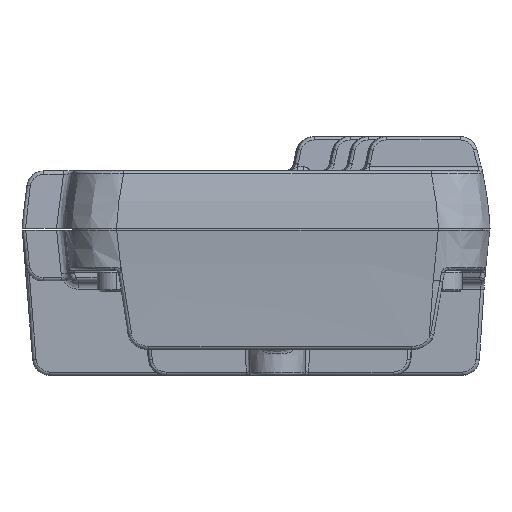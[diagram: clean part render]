
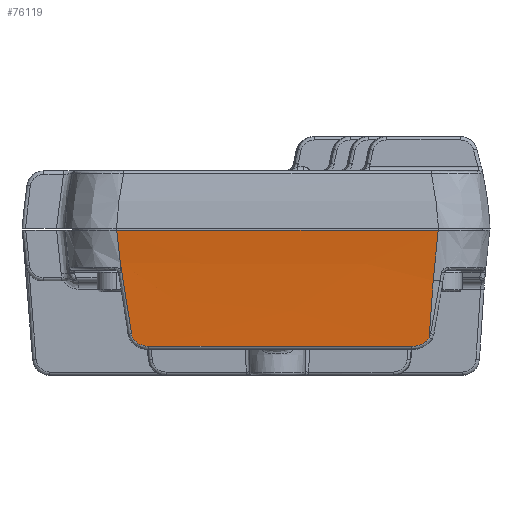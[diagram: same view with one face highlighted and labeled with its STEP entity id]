
A CAD part, left-side view. The second image highlights one B-rep face of the part: STEP entity #76119.
In plain terms, the highlighted face is a extrusion surface.
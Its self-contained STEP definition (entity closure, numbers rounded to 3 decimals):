
#45580=CARTESIAN_POINT('',(-17.967,18.967,1.37));
#48832=CARTESIAN_POINT('',(-16.918,-17.418,
-11.098));
#48833=CARTESIAN_POINT('',(-16.911,-17.359,
-11.203));
#48834=CARTESIAN_POINT('',(-16.899,-17.21,
-11.41));
#48835=CARTESIAN_POINT('',(-16.881,-16.879,
-11.699));
#48836=CARTESIAN_POINT('',(-16.866,-16.441,
-11.936));
#48837=CARTESIAN_POINT('',(-16.857,-15.95,
-12.088));
#48838=CARTESIAN_POINT('',(-16.855,-15.583,
-12.125));
#48839=CARTESIAN_POINT('',(-16.855,-15.392,
-12.124));
#48888=CARTESIAN_POINT('',(-17.967,18.967,1.37));
#48889=CARTESIAN_POINT('',(-17.942,18.944,
1.181));
#48890=CARTESIAN_POINT('',(-17.89,18.898,
0.792));
#48891=CARTESIAN_POINT('',(-17.825,18.831,
0.238));
#48892=CARTESIAN_POINT('',(-17.754,18.757,
-0.407));
#48893=CARTESIAN_POINT('',(-17.691,18.693,
-1.008));
#48894=CARTESIAN_POINT('',(-17.624,18.622,
-1.699));
#48895=CARTESIAN_POINT('',(-17.581,18.58,
-2.145));
#48896=CARTESIAN_POINT('',(-17.561,18.559,
-2.368));
#48898=DIRECTION('',(0.,1.,0.));
#48899=VECTOR('',#48898,37.435);
#48900=CARTESIAN_POINT('',(-17.967,-18.467,
1.37));
#48901=LINE('',#48900,#48899);
#48902=CARTESIAN_POINT('',(-17.385,-17.884,
-4.452));
#48903=CARTESIAN_POINT('',(-17.414,-17.913,
-4.086));
#48904=CARTESIAN_POINT('',(-17.477,-17.974,
-3.303));
#48905=CARTESIAN_POINT('',(-17.581,-18.079,
-2.105));
#48906=CARTESIAN_POINT('',(-17.703,-18.201,
-0.86));
#48907=CARTESIAN_POINT('',(-17.837,-18.334,
0.298));
#48908=CARTESIAN_POINT('',(-17.926,-18.426,
1.04));
#48909=CARTESIAN_POINT('',(-17.967,-18.467,
1.37));
#48911=CARTESIAN_POINT('',(-16.918,-17.418,
-11.098));
#48912=CARTESIAN_POINT('',(-16.967,-17.466,
-10.308));
#48913=CARTESIAN_POINT('',(-17.068,-17.565,
-8.76));
#48914=CARTESIAN_POINT('',(-17.22,-17.718,
-6.572));
#48915=CARTESIAN_POINT('',(-17.327,-17.826,
-5.174));
#48916=CARTESIAN_POINT('',(-17.381,-17.881,
-4.5));
#48918=DIRECTION('',(0.,-1.,0.));
#48919=VECTOR('',#48918,30.625);
#48920=CARTESIAN_POINT('',(-16.855,15.233,
-12.124));
#48921=LINE('',#48920,#48919);
#48922=CARTESIAN_POINT('',(-16.945,17.242,
-10.665));
#48923=CARTESIAN_POINT('',(-16.938,17.226,
-10.775));
#48924=CARTESIAN_POINT('',(-16.925,17.164,
-10.993));
#48925=CARTESIAN_POINT('',(-16.906,17.,
-11.289));
#48926=CARTESIAN_POINT('',(-16.89,16.778,
-11.544));
#48927=CARTESIAN_POINT('',(-16.879,16.558,
-11.72));
#48928=CARTESIAN_POINT('',(-16.872,16.366,
-11.838));
#48929=CARTESIAN_POINT('',(-16.866,16.165,
-11.94));
#48930=CARTESIAN_POINT('',(-16.858,15.798,
-12.076));
#48931=CARTESIAN_POINT('',(-16.855,15.458,
-12.124));
#48932=CARTESIAN_POINT('',(-16.855,15.233,
-12.124));
#48934=CARTESIAN_POINT('',(-17.559,18.557,
-2.392));
#48935=CARTESIAN_POINT('',(-17.435,18.324,
-3.755));
#48936=CARTESIAN_POINT('',(-17.22,17.88,
-6.503));
#48937=CARTESIAN_POINT('',(-17.034,17.453,
-9.27));
#48938=CARTESIAN_POINT('',(-16.945,17.242,
-10.665));
#48940=CARTESIAN_POINT('',(-17.561,18.559,
-2.368));
#48941=CARTESIAN_POINT('',(-17.56,18.559,
-2.371));
#48942=CARTESIAN_POINT('',(-17.562,18.557,
-2.382));
#48943=CARTESIAN_POINT('',(-17.559,18.557,
-2.385));
#48944=CARTESIAN_POINT('',(-17.559,18.557,
-2.392));
#49781=CARTESIAN_POINT('',(-17.385,-17.884,
-4.452));
#49782=CARTESIAN_POINT('',(-17.383,-17.883,
-4.468));
#49783=CARTESIAN_POINT('',(-17.382,-17.882,
-4.484));
#49784=CARTESIAN_POINT('',(-17.381,-17.881,
-4.5));
#57843=VERTEX_POINT('',#45580);
#57844=CARTESIAN_POINT('',(-17.967,-18.467,
1.37));
#57845=VERTEX_POINT('',#57844);
#58088=VERTEX_POINT('',#48896);
#58089=VERTEX_POINT('',#48922);
#58090=VERTEX_POINT('',#48932);
#58091=CARTESIAN_POINT('',(-16.855,-15.392,
-12.124));
#58092=VERTEX_POINT('',#58091);
#58093=VERTEX_POINT('',#48832);
#58094=VERTEX_POINT('',#48916);
#58095=VERTEX_POINT('',#49781);
#59164=CARTESIAN_POINT('',(-17.557,18.557,
-2.392));
#59166=VERTEX_POINT('',#59164);
#76091=CARTESIAN_POINT('',(-16.847,-18.69,
-12.259));
#76092=CARTESIAN_POINT('',(-17.238,-18.69,
-5.814));
#76093=CARTESIAN_POINT('',(-17.617,-18.69,
-1.195));
#76094=CARTESIAN_POINT('',(-17.978,-18.69,
1.458));
#76095=CARTESIAN_POINT('',(-17.984,-18.69,
1.501));
#76097=DIRECTION('',(0.,1.,0.));
#76098=VECTOR('',#76097,1.);
#76099=SURFACE_OF_LINEAR_EXTRUSION('',#76096,#76098);
#76101=ORIENTED_EDGE('',*,*,#76100,.F.);
#76102=ORIENTED_EDGE('',*,*,#68581,.F.);
#76104=ORIENTED_EDGE('',*,*,#76103,.F.);
#76106=ORIENTED_EDGE('',*,*,#76105,.T.);
#76107=ORIENTED_EDGE('',*,*,#76082,.F.);
#76108=ORIENTED_EDGE('',*,*,#75991,.T.);
#76110=ORIENTED_EDGE('',*,*,#76109,.F.);
#76112=ORIENTED_EDGE('',*,*,#76111,.F.);
#76114=ORIENTED_EDGE('',*,*,#76113,.F.);
#76116=ORIENTED_EDGE('',*,*,#76115,.F.);
#76117=EDGE_LOOP('',(#76101,#76102,#76104,#76106,#76107,#76108,#76110,#76112,
#76114,#76116));
#76118=FACE_OUTER_BOUND('',#76117,.F.);
#76119=ADVANCED_FACE('',(#76118),#76099,.T.);
#48840=B_SPLINE_CURVE_WITH_KNOTS('',3,(#48832,#48833,#48834,#48835,#48836,
#48837,#48838,#48839),.UNSPECIFIED.,.F.,.F.,(4,1,1,1,1,4),(0.,0.2,0.4,
0.6,0.8,1.),.UNSPECIFIED.);
#48897=B_SPLINE_CURVE_WITH_KNOTS('',3,(#48888,#48889,#48890,#48891,#48892,
#48893,#48894,#48895,#48896),.UNSPECIFIED.,.F.,.F.,(4,1,1,1,1,1,4),(0.,
0.167,0.333,0.5,0.667,0.833,
1.),.UNSPECIFIED.);
#48910=B_SPLINE_CURVE_WITH_KNOTS('',3,(#48902,#48903,#48904,#48905,#48906,
#48907,#48908,#48909),.UNSPECIFIED.,.F.,.F.,(4,1,1,1,1,4),(0.,
0.188,0.402,0.616,0.829,1.),
.UNSPECIFIED.);
#48917=B_SPLINE_CURVE_WITH_KNOTS('',3,(#48911,#48912,#48913,#48914,#48915,
#48916),.UNSPECIFIED.,.F.,.F.,(4,1,1,4),(0.,0.333,
0.667,1.),.UNSPECIFIED.);
#48933=B_SPLINE_CURVE_WITH_KNOTS('',3,(#48922,#48923,#48924,#48925,#48926,
#48927,#48928,#48929,#48930,#48931,#48932),.UNSPECIFIED.,.F.,.F.,(4,1,1,1,1,1,1,
1,4),(0.,0.125,0.25,0.375,0.5,0.563,0.625,0.75,1.),
.UNSPECIFIED.);
#48939=B_SPLINE_CURVE_WITH_KNOTS('',3,(#48934,#48935,#48936,#48937,#48938),
.UNSPECIFIED.,.F.,.F.,(4,1,4),(0.,0.496,1.),.UNSPECIFIED.);
#48945=B_SPLINE_CURVE_WITH_KNOTS('',3,(#48940,#48941,#48942,#48943,#48944),
.UNSPECIFIED.,.F.,.F.,(4,1,4),(0.,0.5,1.),.UNSPECIFIED.);
#49785=B_SPLINE_CURVE_WITH_KNOTS('',3,(#49781,#49782,#49783,#49784),
.UNSPECIFIED.,.F.,.F.,(4,4),(0.,1.),.UNSPECIFIED.);
#68581=EDGE_CURVE('',#57845,#57843,#48901,.T.);
#75991=EDGE_CURVE('',#58093,#58092,#48840,.T.);
#76082=EDGE_CURVE('',#58093,#58094,#48917,.T.);
#76096=B_SPLINE_CURVE_WITH_KNOTS('',3,(#76091,#76092,#76093,#76094,#76095),
.UNSPECIFIED.,.F.,.F.,(4,1,4),(0.,0.984,1.),.UNSPECIFIED.);
#76100=EDGE_CURVE('',#57843,#58088,#48897,.T.);
#76103=EDGE_CURVE('',#58095,#57845,#48910,.T.);
#76105=EDGE_CURVE('',#58095,#58094,#49785,.T.);
#76109=EDGE_CURVE('',#58090,#58092,#48921,.T.);
#76111=EDGE_CURVE('',#58089,#58090,#48933,.T.);
#76113=EDGE_CURVE('',#59166,#58089,#48939,.T.);
#76115=EDGE_CURVE('',#58088,#59166,#48945,.T.);
